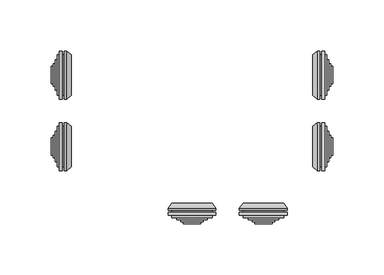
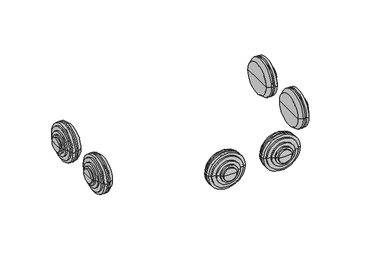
"""IFC4 building model written with IfcOpenShell, lengths in millimetres: cable carrier fitting geometry, КНС_КоробкаОтветвительнаяСКабельнымиВводами_10_IP55_DKC : с 10 кабельными вводами д.32мм, IP55, 240х190х90мм."""

from ifc_helpers import new_model, si_unit, frame, origin, place, context, project, spatial, polyline, circle_curve, source, transform, mapped, element, save
from ifc_brep_helpers import plane_surface, cylinder_surface, revolved_surface, advanced_brep


def cable_carrier_fitting_9a70af75(model_context):
    return source(origin(), model_context, "Body", "AdvancedBrep", [
        advanced_brep(
        [(-125.0, -55.0, 43.0), (-125.0, -15.0, 43.0), (-125.0, -11.5, 43.0), (-125.0, -58.5, 43.0), (-127.0, -55.0, 43.0), (-127.0, -15.0, 43.0), (-127.0, -58.5, 43.0), (-127.0, -11.5, 43.0), (-130.0, -58.5, 43.0), (-130.0, -11.5, 43.0), (-130.0, -55.0, 43.0), (-130.0, -15.0, 43.0), (-132.0, -55.0, 43.0), (-132.0, -15.0, 43.0), (-132.0, -50.0, 43.0), (-132.0, -20.0, 43.0), (-134.0, -50.0, 43.0), (-134.0, -20.0, 43.0), (-134.0, -46.0, 43.0), (-134.0, -24.0, 43.0), (-136.0, -46.0, 43.0), (-136.0, -24.0, 43.0), (-136.0, -43.5, 43.0), (-136.0, -26.5, 43.0), (-138.0, -43.5, 43.0), (-138.0, -26.5, 43.0), (-138.0, -35.0, 43.0), (-118.0, -55.0, 43.0), (-118.0, -15.0, 43.0), (-118.0, -35.0, 43.0), (-122.7491137, -58.5, 43.0), (-122.7491137, -11.5, 43.0)],
        [
            (0, 1, circle_curve(frame((-125.0, -35.0, 43.0), z_axis=(1.0, 0.0, 0.0), x_axis=(0.0, 1.0000000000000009, 0.0)), 20.0)),
            (1, 2),
            (2, 3, circle_curve(frame((-125.0, -35.0, 43.0), z_axis=(-1.0, 0.0, 0.0), x_axis=(0.0, 1.0000000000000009, 0.0)), 23.5)),
            (3, 0),
            (1, 0, circle_curve(frame((-125.0, -35.0, 43.0), z_axis=(1.0, 0.0, 0.0), x_axis=(0.0, 1.0000000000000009, 0.0)), 20.0)),
            (3, 2, circle_curve(frame((-125.0, -35.0, 43.0), z_axis=(-1.0, 0.0, 0.0), x_axis=(0.0, 1.0000000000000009, 0.0)), 23.5)),
            (4, 5, circle_curve(frame((-127.0, -35.0, 43.0), z_axis=(1.0, 0.0, 0.0), x_axis=(0.0, 1.0000000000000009, 0.0)), 20.0)),
            (5, 1),
            (0, 4),
            (5, 4, circle_curve(frame((-127.0, -35.0, 43.0), z_axis=(1.0, 0.0, 0.0), x_axis=(0.0, 1.0000000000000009, 0.0)), 20.0)),
            (6, 7, circle_curve(frame((-127.0, -35.0, 43.0), z_axis=(1.0, 0.0, 0.0), x_axis=(0.0, 1.0000000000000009, 0.0)), 23.5)),
            (7, 5),
            (4, 6),
            (7, 6, circle_curve(frame((-127.0, -35.0, 43.0), z_axis=(1.0, 0.0, 0.0), x_axis=(0.0, 1.0000000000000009, 0.0)), 23.5)),
            (8, 9, circle_curve(frame((-130.0, -35.0, 43.0), z_axis=(1.0, 0.0, 0.0), x_axis=(0.0, 1.0000000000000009, 0.0)), 23.5)),
            (9, 7),
            (6, 8),
            (9, 8, circle_curve(frame((-130.0, -35.0, 43.0), z_axis=(1.0, 0.0, 0.0), x_axis=(0.0, 1.0000000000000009, 0.0)), 23.5)),
            (10, 11, circle_curve(frame((-130.0, -35.0, 43.0), z_axis=(1.0, 0.0, 0.0), x_axis=(0.0, 1.0000000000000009, 0.0)), 20.0)),
            (11, 9),
            (8, 10),
            (11, 10, circle_curve(frame((-130.0, -35.0, 43.0), z_axis=(1.0, 0.0, 0.0), x_axis=(0.0, 1.0000000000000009, 0.0)), 20.0)),
            (12, 13, circle_curve(frame((-132.0, -35.0, 43.0), z_axis=(1.0, 0.0, 0.0), x_axis=(0.0, 1.0000000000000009, 0.0)), 20.0)),
            (13, 11),
            (10, 12),
            (13, 12, circle_curve(frame((-132.0, -35.0, 43.0), z_axis=(1.0, 0.0, 0.0), x_axis=(0.0, 1.0000000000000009, 0.0)), 20.0)),
            (14, 15, circle_curve(frame((-132.0, -35.0, 43.0), z_axis=(1.0, 0.0, 0.0), x_axis=(0.0, 1.0000000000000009, 0.0)), 15.0)),
            (15, 13),
            (12, 14),
            (15, 14, circle_curve(frame((-132.0, -35.0, 43.0), z_axis=(1.0, 0.0, 0.0), x_axis=(0.0, 1.0000000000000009, 0.0)), 15.0)),
            (16, 17, circle_curve(frame((-134.0, -35.0, 43.0), z_axis=(1.0, 0.0, 0.0), x_axis=(0.0, 1.0000000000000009, 0.0)), 15.0)),
            (17, 15),
            (14, 16),
            (17, 16, circle_curve(frame((-134.0, -35.0, 43.0), z_axis=(1.0, 0.0, 0.0), x_axis=(0.0, 1.0000000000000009, 0.0)), 15.0)),
            (18, 19, circle_curve(frame((-134.0, -35.0, 43.0), z_axis=(1.0, 0.0, 0.0), x_axis=(0.0, 1.0000000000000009, 0.0)), 11.0)),
            (19, 17),
            (16, 18),
            (19, 18, circle_curve(frame((-134.0, -35.0, 43.0), z_axis=(1.0, 0.0, 0.0), x_axis=(0.0, 1.0000000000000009, 0.0)), 11.0)),
            (20, 21, circle_curve(frame((-136.0, -35.0, 43.0), z_axis=(1.0, 0.0, 0.0), x_axis=(0.0, 1.0000000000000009, 0.0)), 11.0)),
            (21, 19),
            (18, 20),
            (21, 20, circle_curve(frame((-136.0, -35.0, 43.0), z_axis=(1.0, 0.0, 0.0), x_axis=(0.0, 1.0000000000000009, 0.0)), 11.0)),
            (22, 23, circle_curve(frame((-136.0, -35.0, 43.0), z_axis=(1.0, 0.0, 0.0), x_axis=(0.0, 1.0000000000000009, 0.0)), 8.5)),
            (23, 21),
            (20, 22),
            (23, 22, circle_curve(frame((-136.0, -35.0, 43.0), z_axis=(1.0, 0.0, 0.0), x_axis=(0.0, 1.0000000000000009, 0.0)), 8.5)),
            (24, 25, circle_curve(frame((-138.0, -35.0, 43.0), z_axis=(1.0, 0.0, 0.0), x_axis=(0.0, 1.0000000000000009, 0.0)), 8.5)),
            (25, 23),
            (22, 24),
            (25, 24, circle_curve(frame((-138.0, -35.0, 43.0), z_axis=(1.0, 0.0, 0.0), x_axis=(0.0, 1.0000000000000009, 0.0)), 8.5)),
            (26, 25),
            (24, 26),
            (27, 28, circle_curve(frame((-118.0, -35.0, 43.0), z_axis=(1.0, 0.0, 0.0), x_axis=(0.0, 1.0000000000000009, 0.0)), 20.0)),
            (28, 29),
            (29, 27),
            (28, 27, circle_curve(frame((-118.0, -35.0, 43.0), z_axis=(1.0, 0.0, 0.0), x_axis=(0.0, 1.0000000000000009, 0.0)), 20.0)),
            (30, 31, circle_curve(frame((-122.7491137, -35.0, 43.0), z_axis=(1.0, 0.0, 0.0), x_axis=(0.0, 1.0000000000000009, 0.0)), 23.5)),
            (31, 28),
            (27, 30),
            (31, 30, circle_curve(frame((-122.7491137, -35.0, 43.0), z_axis=(1.0, 0.0, 0.0), x_axis=(0.0, 1.0000000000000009, 0.0)), 23.5)),
            (2, 31),
            (30, 3),
        ],
        [
            plane_surface(frame((-125.0, -35.0, 43.0), z_axis=(-1.0, 0.0, 0.0), x_axis=(0.0, 1.0, 0.0))),
            cylinder_surface(frame((1388.0, -35.0, 43.0), z_axis=(-1.0000000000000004, 0.0, 0.0), x_axis=(0.0, 1.0000000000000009, 0.0)), 20.0),
            plane_surface(frame((-127.0, -35.0, 43.0), z_axis=(1.0, 0.0, 0.0), x_axis=(0.0, 1.0, 0.0))),
            cylinder_surface(frame((1388.0, -35.0, 43.0), z_axis=(-1.0000000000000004, 0.0, 0.0), x_axis=(0.0, 1.0000000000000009, 0.0)), 23.5),
            plane_surface(frame((-130.0, -35.0, 43.0), z_axis=(-1.0, 0.0, 0.0), x_axis=(0.0, 1.0, 0.0))),
            plane_surface(frame((-132.0, -35.0, 43.0), z_axis=(-1.0, 0.0, 0.0), x_axis=(0.0, 1.0, 0.0))),
            cylinder_surface(frame((1388.0, -35.0, 43.0), z_axis=(-1.0000000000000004, 0.0, 0.0), x_axis=(0.0, 1.0000000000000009, 0.0)), 15.0),
            plane_surface(frame((-134.0, -35.0, 43.0), z_axis=(-1.0, 0.0, 0.0), x_axis=(0.0, 1.0, 0.0))),
            cylinder_surface(frame((1388.0, -35.0, 43.0), z_axis=(-1.0000000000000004, 0.0, 0.0), x_axis=(0.0, 1.0000000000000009, 0.0)), 11.0),
            plane_surface(frame((-136.0, -35.0, 43.0), z_axis=(-1.0, 0.0, 0.0), x_axis=(0.0, 1.0, 0.0))),
            cylinder_surface(frame((1388.0, -35.0, 43.0), z_axis=(-1.0000000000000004, 0.0, 0.0), x_axis=(0.0, 1.0000000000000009, 0.0)), 8.5),
            plane_surface(frame((-138.0, -35.0, 43.0), z_axis=(-1.0, 0.0, 0.0), x_axis=(0.0, 1.0, 0.0))),
            plane_surface(frame((-118.0, -35.0, 43.0), z_axis=(1.0, 0.0, 0.0), x_axis=(0.0, 1.0, 0.0))),
            revolved_surface(polyline([(-118.0, -15.0, 43.0), (-122.7491137, -11.5, 43.0)]), (1388.0, -35.0, 43.0), (-1.0000000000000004, 0.0, 0.0)),
        ],
        [
            (0, [[1, 2, 3, 4]]),
            (0, [[5, -4, 6, -2]]),
            (1, [[7, 8, -1, 9]]),
            (1, [[10, -9, -5, -8]]),
            (2, [[11, 12, -7, 13]]),
            (2, [[14, -13, -10, -12]]),
            (3, [[15, 16, -11, 17]]),
            (3, [[18, -17, -14, -16]]),
            (4, [[19, 20, -15, 21]]),
            (4, [[22, -21, -18, -20]]),
            (1, [[23, 24, -19, 25]]),
            (1, [[26, -25, -22, -24]]),
            (5, [[27, 28, -23, 29]]),
            (5, [[30, -29, -26, -28]]),
            (6, [[31, 32, -27, 33]]),
            (6, [[34, -33, -30, -32]]),
            (7, [[35, 36, -31, 37]]),
            (7, [[38, -37, -34, -36]]),
            (8, [[39, 40, -35, 41]]),
            (8, [[42, -41, -38, -40]]),
            (9, [[43, 44, -39, 45]]),
            (9, [[46, -45, -42, -44]]),
            (10, [[47, 48, -43, 49]]),
            (10, [[50, -49, -46, -48]]),
            (11, [[51, -47, 52]]),
            (11, [[-52, -50, -51]]),
            (12, [[53, 54, 55]]),
            (12, [[56, -55, -54]]),
            (13, [[57, 58, -53, 59]]),
            (13, [[60, -59, -56, -58]]),
            (3, [[-3, 61, -57, 62]]),
            (3, [[-6, -62, -60, -61]]),
        ],
    ),
        advanced_brep(
        [(-125.0, 15.0, 43.0), (-125.0, 55.0, 43.0), (-125.0, 58.5, 43.0), (-125.0, 11.5, 43.0), (-127.0, 15.0, 43.0), (-127.0, 55.0, 43.0), (-127.0, 11.5, 43.0), (-127.0, 58.5, 43.0), (-130.0, 11.5, 43.0), (-130.0, 58.5, 43.0), (-130.0, 15.0, 43.0), (-130.0, 55.0, 43.0), (-132.0, 15.0, 43.0), (-132.0, 55.0, 43.0), (-132.0, 20.0, 43.0), (-132.0, 50.0, 43.0), (-134.0, 20.0, 43.0), (-134.0, 50.0, 43.0), (-134.0, 24.0, 43.0), (-134.0, 46.0, 43.0), (-136.0, 24.0, 43.0), (-136.0, 46.0, 43.0), (-136.0, 26.5, 43.0), (-136.0, 43.5, 43.0), (-138.0, 26.5, 43.0), (-138.0, 43.5, 43.0), (-138.0, 35.0, 43.0), (-118.0, 15.0, 43.0), (-118.0, 55.0, 43.0), (-118.0, 35.0, 43.0), (-122.7491137, 11.5, 43.0), (-122.7491137, 58.5, 43.0)],
        [
            (0, 1, circle_curve(frame((-125.0, 35.0, 43.0), z_axis=(1.0, 0.0, 0.0), x_axis=(0.0, 1.0000000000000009, 0.0)), 20.0)),
            (1, 2),
            (2, 3, circle_curve(frame((-125.0, 35.0, 43.0), z_axis=(-1.0, 0.0, 0.0), x_axis=(0.0, 1.0000000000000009, 0.0)), 23.5)),
            (3, 0),
            (1, 0, circle_curve(frame((-125.0, 35.0, 43.0), z_axis=(1.0, 0.0, 0.0), x_axis=(0.0, 1.0000000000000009, 0.0)), 20.0)),
            (3, 2, circle_curve(frame((-125.0, 35.0, 43.0), z_axis=(-1.0, 0.0, 0.0), x_axis=(0.0, 1.0000000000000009, 0.0)), 23.5)),
            (4, 5, circle_curve(frame((-127.0, 35.0, 43.0), z_axis=(1.0, 0.0, 0.0), x_axis=(0.0, 1.0000000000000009, 0.0)), 20.0)),
            (5, 1),
            (0, 4),
            (5, 4, circle_curve(frame((-127.0, 35.0, 43.0), z_axis=(1.0, 0.0, 0.0), x_axis=(0.0, 1.0000000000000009, 0.0)), 20.0)),
            (6, 7, circle_curve(frame((-127.0, 35.0, 43.0), z_axis=(1.0, 0.0, 0.0), x_axis=(0.0, 1.0000000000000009, 0.0)), 23.5)),
            (7, 5),
            (4, 6),
            (7, 6, circle_curve(frame((-127.0, 35.0, 43.0), z_axis=(1.0, 0.0, 0.0), x_axis=(0.0, 1.0000000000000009, 0.0)), 23.5)),
            (8, 9, circle_curve(frame((-130.0, 35.0, 43.0), z_axis=(1.0, 0.0, 0.0), x_axis=(0.0, 1.0000000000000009, 0.0)), 23.5)),
            (9, 7),
            (6, 8),
            (9, 8, circle_curve(frame((-130.0, 35.0, 43.0), z_axis=(1.0, 0.0, 0.0), x_axis=(0.0, 1.0000000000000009, 0.0)), 23.5)),
            (10, 11, circle_curve(frame((-130.0, 35.0, 43.0), z_axis=(1.0, 0.0, 0.0), x_axis=(0.0, 1.0000000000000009, 0.0)), 20.0)),
            (11, 9),
            (8, 10),
            (11, 10, circle_curve(frame((-130.0, 35.0, 43.0), z_axis=(1.0, 0.0, 0.0), x_axis=(0.0, 1.0000000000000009, 0.0)), 20.0)),
            (12, 13, circle_curve(frame((-132.0, 35.0, 43.0), z_axis=(1.0, 0.0, 0.0), x_axis=(0.0, 1.0000000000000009, 0.0)), 20.0)),
            (13, 11),
            (10, 12),
            (13, 12, circle_curve(frame((-132.0, 35.0, 43.0), z_axis=(1.0, 0.0, 0.0), x_axis=(0.0, 1.0000000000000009, 0.0)), 20.0)),
            (14, 15, circle_curve(frame((-132.0, 35.0, 43.0), z_axis=(1.0, 0.0, 0.0), x_axis=(0.0, 1.0000000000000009, 0.0)), 15.0)),
            (15, 13),
            (12, 14),
            (15, 14, circle_curve(frame((-132.0, 35.0, 43.0), z_axis=(1.0, 0.0, 0.0), x_axis=(0.0, 1.0000000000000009, 0.0)), 15.0)),
            (16, 17, circle_curve(frame((-134.0, 35.0, 43.0), z_axis=(1.0, 0.0, 0.0), x_axis=(0.0, 1.0000000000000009, 0.0)), 15.0)),
            (17, 15),
            (14, 16),
            (17, 16, circle_curve(frame((-134.0, 35.0, 43.0), z_axis=(1.0, 0.0, 0.0), x_axis=(0.0, 1.0000000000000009, 0.0)), 15.0)),
            (18, 19, circle_curve(frame((-134.0, 35.0, 43.0), z_axis=(1.0, 0.0, 0.0), x_axis=(0.0, 1.0000000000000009, 0.0)), 11.0)),
            (19, 17),
            (16, 18),
            (19, 18, circle_curve(frame((-134.0, 35.0, 43.0), z_axis=(1.0, 0.0, 0.0), x_axis=(0.0, 1.0000000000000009, 0.0)), 11.0)),
            (20, 21, circle_curve(frame((-136.0, 35.0, 43.0), z_axis=(1.0, 0.0, 0.0), x_axis=(0.0, 1.0000000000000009, 0.0)), 11.0)),
            (21, 19),
            (18, 20),
            (21, 20, circle_curve(frame((-136.0, 35.0, 43.0), z_axis=(1.0, 0.0, 0.0), x_axis=(0.0, 1.0000000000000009, 0.0)), 11.0)),
            (22, 23, circle_curve(frame((-136.0, 35.0, 43.0), z_axis=(1.0, 0.0, 0.0), x_axis=(0.0, 1.0000000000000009, 0.0)), 8.5)),
            (23, 21),
            (20, 22),
            (23, 22, circle_curve(frame((-136.0, 35.0, 43.0), z_axis=(1.0, 0.0, 0.0), x_axis=(0.0, 1.0000000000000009, 0.0)), 8.5)),
            (24, 25, circle_curve(frame((-138.0, 35.0, 43.0), z_axis=(1.0, 0.0, 0.0), x_axis=(0.0, 1.0000000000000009, 0.0)), 8.5)),
            (25, 23),
            (22, 24),
            (25, 24, circle_curve(frame((-138.0, 35.0, 43.0), z_axis=(1.0, 0.0, 0.0), x_axis=(0.0, 1.0000000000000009, 0.0)), 8.5)),
            (26, 25),
            (24, 26),
            (27, 28, circle_curve(frame((-118.0, 35.0, 43.0), z_axis=(1.0, 0.0, 0.0), x_axis=(0.0, 1.0000000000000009, 0.0)), 20.0)),
            (28, 29),
            (29, 27),
            (28, 27, circle_curve(frame((-118.0, 35.0, 43.0), z_axis=(1.0, 0.0, 0.0), x_axis=(0.0, 1.0000000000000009, 0.0)), 20.0)),
            (30, 31, circle_curve(frame((-122.7491137, 35.0, 43.0), z_axis=(1.0, 0.0, 0.0), x_axis=(0.0, 1.0000000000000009, 0.0)), 23.5)),
            (31, 28),
            (27, 30),
            (31, 30, circle_curve(frame((-122.7491137, 35.0, 43.0), z_axis=(1.0, 0.0, 0.0), x_axis=(0.0, 1.0000000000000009, 0.0)), 23.5)),
            (2, 31),
            (30, 3),
        ],
        [
            plane_surface(frame((-125.0, 35.0, 43.0), z_axis=(-1.0, 0.0, 0.0), x_axis=(0.0, 1.0, 0.0))),
            cylinder_surface(frame((1388.0, 35.0, 43.0), z_axis=(-1.0000000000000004, 0.0, 0.0), x_axis=(0.0, 1.0000000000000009, 0.0)), 20.0),
            plane_surface(frame((-127.0, 35.0, 43.0), z_axis=(1.0, 0.0, 0.0), x_axis=(0.0, 1.0, 0.0))),
            cylinder_surface(frame((1388.0, 35.0, 43.0), z_axis=(-1.0000000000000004, 0.0, 0.0), x_axis=(0.0, 1.0000000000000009, 0.0)), 23.5),
            plane_surface(frame((-130.0, 35.0, 43.0), z_axis=(-1.0, 0.0, 0.0), x_axis=(0.0, 1.0, 0.0))),
            plane_surface(frame((-132.0, 35.0, 43.0), z_axis=(-1.0, 0.0, 0.0), x_axis=(0.0, 1.0, 0.0))),
            cylinder_surface(frame((1388.0, 35.0, 43.0), z_axis=(-1.0000000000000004, 0.0, 0.0), x_axis=(0.0, 1.0000000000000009, 0.0)), 15.0),
            plane_surface(frame((-134.0, 35.0, 43.0), z_axis=(-1.0, 0.0, 0.0), x_axis=(0.0, 1.0, 0.0))),
            cylinder_surface(frame((1388.0, 35.0, 43.0), z_axis=(-1.0000000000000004, 0.0, 0.0), x_axis=(0.0, 1.0000000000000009, 0.0)), 11.0),
            plane_surface(frame((-136.0, 35.0, 43.0), z_axis=(-1.0, 0.0, 0.0), x_axis=(0.0, 1.0, 0.0))),
            cylinder_surface(frame((1388.0, 35.0, 43.0), z_axis=(-1.0000000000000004, 0.0, 0.0), x_axis=(0.0, 1.0000000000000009, 0.0)), 8.5),
            plane_surface(frame((-138.0, 35.0, 43.0), z_axis=(-1.0, 0.0, 0.0), x_axis=(0.0, 1.0, 0.0))),
            plane_surface(frame((-118.0, 35.0, 43.0), z_axis=(1.0, 0.0, 0.0), x_axis=(0.0, 1.0, 0.0))),
            revolved_surface(polyline([(-118.0, 55.0, 43.0), (-122.7491137, 58.5, 43.0)]), (1388.0, 35.0, 43.0), (-1.0000000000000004, 0.0, 0.0)),
        ],
        [
            (0, [[1, 2, 3, 4]]),
            (0, [[5, -4, 6, -2]]),
            (1, [[7, 8, -1, 9]]),
            (1, [[10, -9, -5, -8]]),
            (2, [[11, 12, -7, 13]]),
            (2, [[14, -13, -10, -12]]),
            (3, [[15, 16, -11, 17]]),
            (3, [[18, -17, -14, -16]]),
            (4, [[19, 20, -15, 21]]),
            (4, [[22, -21, -18, -20]]),
            (1, [[23, 24, -19, 25]]),
            (1, [[26, -25, -22, -24]]),
            (5, [[27, 28, -23, 29]]),
            (5, [[30, -29, -26, -28]]),
            (6, [[31, 32, -27, 33]]),
            (6, [[34, -33, -30, -32]]),
            (7, [[35, 36, -31, 37]]),
            (7, [[38, -37, -34, -36]]),
            (8, [[39, 40, -35, 41]]),
            (8, [[42, -41, -38, -40]]),
            (9, [[43, 44, -39, 45]]),
            (9, [[46, -45, -42, -44]]),
            (10, [[47, 48, -43, 49]]),
            (10, [[50, -49, -46, -48]]),
            (11, [[51, -47, 52]]),
            (11, [[-52, -50, -51]]),
            (12, [[53, 54, 55]]),
            (12, [[56, -55, -54]]),
            (13, [[57, 58, -53, 59]]),
            (13, [[60, -59, -56, -58]]),
            (3, [[-3, 61, -57, 62]]),
            (3, [[-6, -62, -60, -61]]),
        ],
    ),
        advanced_brep(
        [(125.0, 55.0, 43.0), (125.0, 15.0, 43.0), (125.0, 11.5, 43.0), (125.0, 58.5, 43.0), (127.0, 55.0, 43.0), (127.0, 15.0, 43.0), (127.0, 58.5, 43.0), (127.0, 11.5, 43.0), (130.0, 58.5, 43.0), (130.0, 11.5, 43.0), (130.0, 55.0, 43.0), (130.0, 15.0, 43.0), (132.0, 55.0, 43.0), (132.0, 15.0, 43.0), (132.0, 50.0, 43.0), (132.0, 20.0, 43.0), (134.0, 50.0, 43.0), (134.0, 20.0, 43.0), (134.0, 46.0, 43.0), (134.0, 24.0, 43.0), (136.0, 46.0, 43.0), (136.0, 24.0, 43.0), (136.0, 43.5, 43.0), (136.0, 26.5, 43.0), (138.0, 43.5, 43.0), (138.0, 26.5, 43.0), (138.0, 35.0, 43.0), (118.0, 55.0, 43.0), (118.0, 15.0, 43.0), (118.0, 35.0, 43.0), (122.7491137, 58.5, 43.0), (122.7491137, 11.5, 43.0)],
        [
            (0, 1, circle_curve(frame((125.0, 35.0, 43.0), z_axis=(-1.0, 0.0, 0.0), x_axis=(0.0, -1.0, 0.0)), 20.0)),
            (1, 2),
            (2, 3, circle_curve(frame((125.0, 35.0, 43.0), z_axis=(1.0, 0.0, 0.0), x_axis=(0.0, -1.0, 0.0)), 23.5)),
            (3, 0),
            (1, 0, circle_curve(frame((125.0, 35.0, 43.0), z_axis=(-1.0, 0.0, 0.0), x_axis=(0.0, -1.0, 0.0)), 20.0)),
            (3, 2, circle_curve(frame((125.0, 35.0, 43.0), z_axis=(1.0, 0.0, 0.0), x_axis=(0.0, -1.0, 0.0)), 23.5)),
            (4, 5, circle_curve(frame((127.0, 35.0, 43.0), z_axis=(-1.0, 0.0, 0.0), x_axis=(0.0, -1.0, 0.0)), 20.0)),
            (5, 1),
            (0, 4),
            (5, 4, circle_curve(frame((127.0, 35.0, 43.0), z_axis=(-1.0, 0.0, 0.0), x_axis=(0.0, -1.0, 0.0)), 20.0)),
            (6, 7, circle_curve(frame((127.0, 35.0, 43.0), z_axis=(-1.0, 0.0, 0.0), x_axis=(0.0, -1.0, 0.0)), 23.5)),
            (7, 5),
            (4, 6),
            (7, 6, circle_curve(frame((127.0, 35.0, 43.0), z_axis=(-1.0, 0.0, 0.0), x_axis=(0.0, -1.0, 0.0)), 23.5)),
            (8, 9, circle_curve(frame((130.0, 35.0, 43.0), z_axis=(-1.0, 0.0, 0.0), x_axis=(0.0, -1.0, 0.0)), 23.5)),
            (9, 7),
            (6, 8),
            (9, 8, circle_curve(frame((130.0, 35.0, 43.0), z_axis=(-1.0, 0.0, 0.0), x_axis=(0.0, -1.0, 0.0)), 23.5)),
            (10, 11, circle_curve(frame((130.0, 35.0, 43.0), z_axis=(-1.0, 0.0, 0.0), x_axis=(0.0, -1.0, 0.0)), 20.0)),
            (11, 9),
            (8, 10),
            (11, 10, circle_curve(frame((130.0, 35.0, 43.0), z_axis=(-1.0, 0.0, 0.0), x_axis=(0.0, -1.0, 0.0)), 20.0)),
            (12, 13, circle_curve(frame((132.0, 35.0, 43.0), z_axis=(-1.0, 0.0, 0.0), x_axis=(0.0, -1.0, 0.0)), 20.0)),
            (13, 11),
            (10, 12),
            (13, 12, circle_curve(frame((132.0, 35.0, 43.0), z_axis=(-1.0, 0.0, 0.0), x_axis=(0.0, -1.0, 0.0)), 20.0)),
            (14, 15, circle_curve(frame((132.0, 35.0, 43.0), z_axis=(-1.0, 0.0, 0.0), x_axis=(0.0, -1.0, 0.0)), 15.0)),
            (15, 13),
            (12, 14),
            (15, 14, circle_curve(frame((132.0, 35.0, 43.0), z_axis=(-1.0, 0.0, 0.0), x_axis=(0.0, -1.0, 0.0)), 15.0)),
            (16, 17, circle_curve(frame((134.0, 35.0, 43.0), z_axis=(-1.0, 0.0, 0.0), x_axis=(0.0, -1.0, 0.0)), 15.0)),
            (17, 15),
            (14, 16),
            (17, 16, circle_curve(frame((134.0, 35.0, 43.0), z_axis=(-1.0, 0.0, 0.0), x_axis=(0.0, -1.0, 0.0)), 15.0)),
            (18, 19, circle_curve(frame((134.0, 35.0, 43.0), z_axis=(-1.0, 0.0, 0.0), x_axis=(0.0, -1.0, 0.0)), 11.0)),
            (19, 17),
            (16, 18),
            (19, 18, circle_curve(frame((134.0, 35.0, 43.0), z_axis=(-1.0, 0.0, 0.0), x_axis=(0.0, -1.0, 0.0)), 11.0)),
            (20, 21, circle_curve(frame((136.0, 35.0, 43.0), z_axis=(-1.0, 0.0, 0.0), x_axis=(0.0, -1.0, 0.0)), 11.0)),
            (21, 19),
            (18, 20),
            (21, 20, circle_curve(frame((136.0, 35.0, 43.0), z_axis=(-1.0, 0.0, 0.0), x_axis=(0.0, -1.0, 0.0)), 11.0)),
            (22, 23, circle_curve(frame((136.0, 35.0, 43.0), z_axis=(-1.0, 0.0, 0.0), x_axis=(0.0, -1.0, 0.0)), 8.5)),
            (23, 21),
            (20, 22),
            (23, 22, circle_curve(frame((136.0, 35.0, 43.0), z_axis=(-1.0, 0.0, 0.0), x_axis=(0.0, -1.0, 0.0)), 8.5)),
            (24, 25, circle_curve(frame((138.0, 35.0, 43.0), z_axis=(-1.0, 0.0, 0.0), x_axis=(0.0, -1.0, 0.0)), 8.5)),
            (25, 23),
            (22, 24),
            (25, 24, circle_curve(frame((138.0, 35.0, 43.0), z_axis=(-1.0, 0.0, 0.0), x_axis=(0.0, -1.0, 0.0)), 8.5)),
            (26, 25),
            (24, 26),
            (27, 28, circle_curve(frame((118.0, 35.0, 43.0), z_axis=(-1.0, 0.0, 0.0), x_axis=(0.0, -1.0, 0.0)), 20.0)),
            (28, 29),
            (29, 27),
            (28, 27, circle_curve(frame((118.0, 35.0, 43.0), z_axis=(-1.0, 0.0, 0.0), x_axis=(0.0, -1.0, 0.0)), 20.0)),
            (30, 31, circle_curve(frame((122.7491137, 35.0, 43.0), z_axis=(-1.0, 0.0, 0.0), x_axis=(0.0, -1.0, 0.0)), 23.5)),
            (31, 28),
            (27, 30),
            (31, 30, circle_curve(frame((122.7491137, 35.0, 43.0), z_axis=(-1.0, 0.0, 0.0), x_axis=(0.0, -1.0, 0.0)), 23.5)),
            (2, 31),
            (30, 3),
        ],
        [
            plane_surface(frame((125.0, 35.0, 43.0), z_axis=(1.0, 0.0, 0.0), x_axis=(0.0, -1.0, 0.0))),
            cylinder_surface(frame((-1388.0, 35.0, 43.0), z_axis=(1.0, 0.0, 0.0), x_axis=(0.0, -1.0, 0.0)), 20.0),
            plane_surface(frame((127.0, 35.0, 43.0), z_axis=(-1.0, 0.0, 0.0), x_axis=(0.0, -1.0, 0.0))),
            cylinder_surface(frame((-1388.0, 35.0, 43.0), z_axis=(1.0, 0.0, 0.0), x_axis=(0.0, -1.0, 0.0)), 23.5),
            plane_surface(frame((130.0, 35.0, 43.0), z_axis=(1.0, 0.0, 0.0), x_axis=(0.0, -1.0, 0.0))),
            plane_surface(frame((132.0, 35.0, 43.0), z_axis=(1.0, 0.0, 0.0), x_axis=(0.0, -1.0, 0.0))),
            cylinder_surface(frame((-1388.0, 35.0, 43.0), z_axis=(1.0, 0.0, 0.0), x_axis=(0.0, -1.0, 0.0)), 15.0),
            plane_surface(frame((134.0, 35.0, 43.0), z_axis=(1.0, 0.0, 0.0), x_axis=(0.0, -1.0, 0.0))),
            cylinder_surface(frame((-1388.0, 35.0, 43.0), z_axis=(1.0, 0.0, 0.0), x_axis=(0.0, -1.0, 0.0)), 11.0),
            plane_surface(frame((136.0, 35.0, 43.0), z_axis=(1.0, 0.0, 0.0), x_axis=(0.0, -1.0, 0.0))),
            cylinder_surface(frame((-1388.0, 35.0, 43.0), z_axis=(1.0, 0.0, 0.0), x_axis=(0.0, -1.0, 0.0)), 8.5),
            plane_surface(frame((138.0, 35.0, 43.0), z_axis=(1.0, 0.0, 0.0), x_axis=(0.0, -1.0, 0.0))),
            plane_surface(frame((118.0, 35.0, 43.0), z_axis=(-1.0, 0.0, 0.0), x_axis=(0.0, -1.0, 0.0))),
            revolved_surface(polyline([(118.0, 15.0, 43.0), (122.7491137, 11.5, 43.0)]), (-1388.0, 35.0, 43.0), (1.0, 0.0, 0.0)),
        ],
        [
            (0, [[1, 2, 3, 4]]),
            (0, [[5, -4, 6, -2]]),
            (1, [[7, 8, -1, 9]]),
            (1, [[10, -9, -5, -8]]),
            (2, [[11, 12, -7, 13]]),
            (2, [[14, -13, -10, -12]]),
            (3, [[15, 16, -11, 17]]),
            (3, [[18, -17, -14, -16]]),
            (4, [[19, 20, -15, 21]]),
            (4, [[22, -21, -18, -20]]),
            (1, [[23, 24, -19, 25]]),
            (1, [[26, -25, -22, -24]]),
            (5, [[27, 28, -23, 29]]),
            (5, [[30, -29, -26, -28]]),
            (6, [[31, 32, -27, 33]]),
            (6, [[34, -33, -30, -32]]),
            (7, [[35, 36, -31, 37]]),
            (7, [[38, -37, -34, -36]]),
            (8, [[39, 40, -35, 41]]),
            (8, [[42, -41, -38, -40]]),
            (9, [[43, 44, -39, 45]]),
            (9, [[46, -45, -42, -44]]),
            (10, [[47, 48, -43, 49]]),
            (10, [[50, -49, -46, -48]]),
            (11, [[51, -47, 52]]),
            (11, [[-52, -50, -51]]),
            (12, [[53, 54, 55]]),
            (12, [[56, -55, -54]]),
            (13, [[57, 58, -53, 59]]),
            (13, [[60, -59, -56, -58]]),
            (3, [[-3, 61, -57, 62]]),
            (3, [[-6, -62, -60, -61]]),
        ],
    ),
        advanced_brep(
        [(125.0, -15.0, 43.0), (125.0, -55.0, 43.0), (125.0, -58.5, 43.0), (125.0, -11.5, 43.0), (127.0, -15.0, 43.0), (127.0, -55.0, 43.0), (127.0, -11.5, 43.0), (127.0, -58.5, 43.0), (130.0, -11.5, 43.0), (130.0, -58.5, 43.0), (130.0, -15.0, 43.0), (130.0, -55.0, 43.0), (132.0, -15.0, 43.0), (132.0, -55.0, 43.0), (132.0, -20.0, 43.0), (132.0, -50.0, 43.0), (134.0, -20.0, 43.0), (134.0, -50.0, 43.0), (134.0, -24.0, 43.0), (134.0, -46.0, 43.0), (136.0, -24.0, 43.0), (136.0, -46.0, 43.0), (136.0, -26.5, 43.0), (136.0, -43.5, 43.0), (138.0, -26.5, 43.0), (138.0, -43.5, 43.0), (138.0, -35.0, 43.0), (118.0, -15.0, 43.0), (118.0, -55.0, 43.0), (118.0, -35.0, 43.0), (122.7491137, -11.5, 43.0), (122.7491137, -58.5, 43.0)],
        [
            (0, 1, circle_curve(frame((125.0, -35.0, 43.0), z_axis=(-1.0, 0.0, 0.0), x_axis=(0.0, -1.0000000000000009, 0.0)), 20.0)),
            (1, 2),
            (2, 3, circle_curve(frame((125.0, -35.0, 43.0), z_axis=(1.0, 0.0, 0.0), x_axis=(0.0, -1.0000000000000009, 0.0)), 23.5)),
            (3, 0),
            (1, 0, circle_curve(frame((125.0, -35.0, 43.0), z_axis=(-1.0, 0.0, 0.0), x_axis=(0.0, -1.0000000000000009, 0.0)), 20.0)),
            (3, 2, circle_curve(frame((125.0, -35.0, 43.0), z_axis=(1.0, 0.0, 0.0), x_axis=(0.0, -1.0000000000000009, 0.0)), 23.5)),
            (4, 5, circle_curve(frame((127.0, -35.0, 43.0), z_axis=(-1.0, 0.0, 0.0), x_axis=(0.0, -1.0000000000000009, 0.0)), 20.0)),
            (5, 1),
            (0, 4),
            (5, 4, circle_curve(frame((127.0, -35.0, 43.0), z_axis=(-1.0, 0.0, 0.0), x_axis=(0.0, -1.0000000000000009, 0.0)), 20.0)),
            (6, 7, circle_curve(frame((127.0, -35.0, 43.0), z_axis=(-1.0, 0.0, 0.0), x_axis=(0.0, -1.0000000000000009, 0.0)), 23.5)),
            (7, 5),
            (4, 6),
            (7, 6, circle_curve(frame((127.0, -35.0, 43.0), z_axis=(-1.0, 0.0, 0.0), x_axis=(0.0, -1.0000000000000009, 0.0)), 23.5)),
            (8, 9, circle_curve(frame((130.0, -35.0, 43.0), z_axis=(-1.0, 0.0, 0.0), x_axis=(0.0, -1.0000000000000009, 0.0)), 23.5)),
            (9, 7),
            (6, 8),
            (9, 8, circle_curve(frame((130.0, -35.0, 43.0), z_axis=(-1.0, 0.0, 0.0), x_axis=(0.0, -1.0000000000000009, 0.0)), 23.5)),
            (10, 11, circle_curve(frame((130.0, -35.0, 43.0), z_axis=(-1.0, 0.0, 0.0), x_axis=(0.0, -1.0000000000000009, 0.0)), 20.0)),
            (11, 9),
            (8, 10),
            (11, 10, circle_curve(frame((130.0, -35.0, 43.0), z_axis=(-1.0, 0.0, 0.0), x_axis=(0.0, -1.0000000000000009, 0.0)), 20.0)),
            (12, 13, circle_curve(frame((132.0, -35.0, 43.0), z_axis=(-1.0, 0.0, 0.0), x_axis=(0.0, -1.0000000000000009, 0.0)), 20.0)),
            (13, 11),
            (10, 12),
            (13, 12, circle_curve(frame((132.0, -35.0, 43.0), z_axis=(-1.0, 0.0, 0.0), x_axis=(0.0, -1.0000000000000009, 0.0)), 20.0)),
            (14, 15, circle_curve(frame((132.0, -35.0, 43.0), z_axis=(-1.0, 0.0, 0.0), x_axis=(0.0, -1.0000000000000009, 0.0)), 15.0)),
            (15, 13),
            (12, 14),
            (15, 14, circle_curve(frame((132.0, -35.0, 43.0), z_axis=(-1.0, 0.0, 0.0), x_axis=(0.0, -1.0000000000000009, 0.0)), 15.0)),
            (16, 17, circle_curve(frame((134.0, -35.0, 43.0), z_axis=(-1.0, 0.0, 0.0), x_axis=(0.0, -1.0000000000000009, 0.0)), 15.0)),
            (17, 15),
            (14, 16),
            (17, 16, circle_curve(frame((134.0, -35.0, 43.0), z_axis=(-1.0, 0.0, 0.0), x_axis=(0.0, -1.0000000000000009, 0.0)), 15.0)),
            (18, 19, circle_curve(frame((134.0, -35.0, 43.0), z_axis=(-1.0, 0.0, 0.0), x_axis=(0.0, -1.0000000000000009, 0.0)), 11.0)),
            (19, 17),
            (16, 18),
            (19, 18, circle_curve(frame((134.0, -35.0, 43.0), z_axis=(-1.0, 0.0, 0.0), x_axis=(0.0, -1.0000000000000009, 0.0)), 11.0)),
            (20, 21, circle_curve(frame((136.0, -35.0, 43.0), z_axis=(-1.0, 0.0, 0.0), x_axis=(0.0, -1.0000000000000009, 0.0)), 11.0)),
            (21, 19),
            (18, 20),
            (21, 20, circle_curve(frame((136.0, -35.0, 43.0), z_axis=(-1.0, 0.0, 0.0), x_axis=(0.0, -1.0000000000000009, 0.0)), 11.0)),
            (22, 23, circle_curve(frame((136.0, -35.0, 43.0), z_axis=(-1.0, 0.0, 0.0), x_axis=(0.0, -1.0000000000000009, 0.0)), 8.5)),
            (23, 21),
            (20, 22),
            (23, 22, circle_curve(frame((136.0, -35.0, 43.0), z_axis=(-1.0, 0.0, 0.0), x_axis=(0.0, -1.0000000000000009, 0.0)), 8.5)),
            (24, 25, circle_curve(frame((138.0, -35.0, 43.0), z_axis=(-1.0, 0.0, 0.0), x_axis=(0.0, -1.0000000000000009, 0.0)), 8.5)),
            (25, 23),
            (22, 24),
            (25, 24, circle_curve(frame((138.0, -35.0, 43.0), z_axis=(-1.0, 0.0, 0.0), x_axis=(0.0, -1.0000000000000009, 0.0)), 8.5)),
            (26, 25),
            (24, 26),
            (27, 28, circle_curve(frame((118.0, -35.0, 43.0), z_axis=(-1.0, 0.0, 0.0), x_axis=(0.0, -1.0000000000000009, 0.0)), 20.0)),
            (28, 29),
            (29, 27),
            (28, 27, circle_curve(frame((118.0, -35.0, 43.0), z_axis=(-1.0, 0.0, 0.0), x_axis=(0.0, -1.0000000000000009, 0.0)), 20.0)),
            (30, 31, circle_curve(frame((122.7491137, -35.0, 43.0), z_axis=(-1.0, 0.0, 0.0), x_axis=(0.0, -1.0000000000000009, 0.0)), 23.5)),
            (31, 28),
            (27, 30),
            (31, 30, circle_curve(frame((122.7491137, -35.0, 43.0), z_axis=(-1.0, 0.0, 0.0), x_axis=(0.0, -1.0000000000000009, 0.0)), 23.5)),
            (2, 31),
            (30, 3),
        ],
        [
            plane_surface(frame((125.0, -35.0, 43.0), z_axis=(1.0, 0.0, 0.0), x_axis=(0.0, -1.0, 0.0))),
            cylinder_surface(frame((-1388.0, -35.0, 43.0), z_axis=(1.0000000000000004, 0.0, 0.0), x_axis=(0.0, -1.0000000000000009, 0.0)), 20.0),
            plane_surface(frame((127.0, -35.0, 43.0), z_axis=(-1.0, 0.0, 0.0), x_axis=(0.0, -1.0, 0.0))),
            cylinder_surface(frame((-1388.0, -35.0, 43.0), z_axis=(1.0000000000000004, 0.0, 0.0), x_axis=(0.0, -1.0000000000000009, 0.0)), 23.5),
            plane_surface(frame((130.0, -35.0, 43.0), z_axis=(1.0, 0.0, 0.0), x_axis=(0.0, -1.0, 0.0))),
            plane_surface(frame((132.0, -35.0, 43.0), z_axis=(1.0, 0.0, 0.0), x_axis=(0.0, -1.0, 0.0))),
            cylinder_surface(frame((-1388.0, -35.0, 43.0), z_axis=(1.0000000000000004, 0.0, 0.0), x_axis=(0.0, -1.0000000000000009, 0.0)), 15.0),
            plane_surface(frame((134.0, -35.0, 43.0), z_axis=(1.0, 0.0, 0.0), x_axis=(0.0, -1.0, 0.0))),
            cylinder_surface(frame((-1388.0, -35.0, 43.0), z_axis=(1.0000000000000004, 0.0, 0.0), x_axis=(0.0, -1.0000000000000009, 0.0)), 11.0),
            plane_surface(frame((136.0, -35.0, 43.0), z_axis=(1.0, 0.0, 0.0), x_axis=(0.0, -1.0, 0.0))),
            cylinder_surface(frame((-1388.0, -35.0, 43.0), z_axis=(1.0000000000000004, 0.0, 0.0), x_axis=(0.0, -1.0000000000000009, 0.0)), 8.5),
            plane_surface(frame((138.0, -35.0, 43.0), z_axis=(1.0, 0.0, 0.0), x_axis=(0.0, -1.0, 0.0))),
            plane_surface(frame((118.0, -35.0, 43.0), z_axis=(-1.0, 0.0, 0.0), x_axis=(0.0, -1.0, 0.0))),
            revolved_surface(polyline([(118.0, -55.0, 43.0), (122.7491137, -58.5, 43.0)]), (-1388.0, -35.0, 43.0), (1.0000000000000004, 0.0, 0.0)),
        ],
        [
            (0, [[1, 2, 3, 4]]),
            (0, [[5, -4, 6, -2]]),
            (1, [[7, 8, -1, 9]]),
            (1, [[10, -9, -5, -8]]),
            (2, [[11, 12, -7, 13]]),
            (2, [[14, -13, -10, -12]]),
            (3, [[15, 16, -11, 17]]),
            (3, [[18, -17, -14, -16]]),
            (4, [[19, 20, -15, 21]]),
            (4, [[22, -21, -18, -20]]),
            (1, [[23, 24, -19, 25]]),
            (1, [[26, -25, -22, -24]]),
            (5, [[27, 28, -23, 29]]),
            (5, [[30, -29, -26, -28]]),
            (6, [[31, 32, -27, 33]]),
            (6, [[34, -33, -30, -32]]),
            (7, [[35, 36, -31, 37]]),
            (7, [[38, -37, -34, -36]]),
            (8, [[39, 40, -35, 41]]),
            (8, [[42, -41, -38, -40]]),
            (9, [[43, 44, -39, 45]]),
            (9, [[46, -45, -42, -44]]),
            (10, [[47, 48, -43, 49]]),
            (10, [[50, -49, -46, -48]]),
            (11, [[51, -47, 52]]),
            (11, [[-52, -50, -51]]),
            (12, [[53, 54, 55]]),
            (12, [[56, -55, -54]]),
            (13, [[57, 58, -53, 59]]),
            (13, [[60, -59, -56, -58]]),
            (3, [[-3, 61, -57, 62]]),
            (3, [[-6, -62, -60, -61]]),
        ],
    ),
        advanced_brep(
        [(90.0, -97.5, 43.0), (50.0, -97.5, 43.0), (46.5, -97.5, 43.0), (93.5, -97.5, 43.0), (90.0, -99.5, 43.0), (50.0, -99.5, 43.0), (93.5, -99.5, 43.0), (46.5, -99.5, 43.0), (93.5, -102.5, 43.0), (46.5, -102.5, 43.0), (90.0, -102.5, 43.0), (50.0, -102.5, 43.0), (90.0, -104.5, 43.0), (50.0, -104.5, 43.0), (85.0, -104.5, 43.0), (55.0, -104.5, 43.0), (85.0, -106.5, 43.0), (55.0, -106.5, 43.0), (81.0, -106.5, 43.0), (59.0, -106.5, 43.0), (81.0, -108.5, 43.0), (59.0, -108.5, 43.0), (78.5, -108.5, 43.0), (61.5, -108.5, 43.0), (78.5, -110.5, 43.0), (61.5, -110.5, 43.0), (70.0, -110.5, 43.0), (90.0, -90.5, 43.0), (50.0, -90.5, 43.0), (70.0, -90.5, 43.0), (93.5, -95.2491137, 43.0), (46.5, -95.2491137, 43.0)],
        [
            (0, 1, circle_curve(frame((70.0, -97.5, 43.0), z_axis=(0.0, 1.0, 0.0), x_axis=(-1.0000000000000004, 0.0, 0.0)), 20.0)),
            (1, 2),
            (2, 3, circle_curve(frame((70.0, -97.5, 43.0), z_axis=(0.0, -1.0, 0.0), x_axis=(-1.0000000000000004, 0.0, 0.0)), 23.5)),
            (3, 0),
            (1, 0, circle_curve(frame((70.0, -97.5, 43.0), z_axis=(0.0, 1.0, 0.0), x_axis=(-1.0000000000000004, 0.0, 0.0)), 20.0)),
            (3, 2, circle_curve(frame((70.0, -97.5, 43.0), z_axis=(0.0, -1.0, 0.0), x_axis=(-1.0000000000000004, 0.0, 0.0)), 23.5)),
            (4, 5, circle_curve(frame((70.0, -99.5, 43.0), z_axis=(0.0, 1.0, 0.0), x_axis=(-1.0000000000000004, 0.0, 0.0)), 20.0)),
            (5, 1),
            (0, 4),
            (5, 4, circle_curve(frame((70.0, -99.5, 43.0), z_axis=(0.0, 1.0, 0.0), x_axis=(-1.0000000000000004, 0.0, 0.0)), 20.0)),
            (6, 7, circle_curve(frame((70.0, -99.5, 43.0), z_axis=(0.0, 1.0, 0.0), x_axis=(-1.0000000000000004, 0.0, 0.0)), 23.5)),
            (7, 5),
            (4, 6),
            (7, 6, circle_curve(frame((70.0, -99.5, 43.0), z_axis=(0.0, 1.0, 0.0), x_axis=(-1.0000000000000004, 0.0, 0.0)), 23.5)),
            (8, 9, circle_curve(frame((70.0, -102.5, 43.0), z_axis=(0.0, 1.0, 0.0), x_axis=(-1.0000000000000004, 0.0, 0.0)), 23.5)),
            (9, 7),
            (6, 8),
            (9, 8, circle_curve(frame((70.0, -102.5, 43.0), z_axis=(0.0, 1.0, 0.0), x_axis=(-1.0000000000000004, 0.0, 0.0)), 23.5)),
            (10, 11, circle_curve(frame((70.0, -102.5, 43.0), z_axis=(0.0, 1.0, 0.0), x_axis=(-1.0000000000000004, 0.0, 0.0)), 20.0)),
            (11, 9),
            (8, 10),
            (11, 10, circle_curve(frame((70.0, -102.5, 43.0), z_axis=(0.0, 1.0, 0.0), x_axis=(-1.0000000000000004, 0.0, 0.0)), 20.0)),
            (12, 13, circle_curve(frame((70.0, -104.5, 43.0), z_axis=(0.0, 1.0, 0.0), x_axis=(-1.0000000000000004, 0.0, 0.0)), 20.0)),
            (13, 11),
            (10, 12),
            (13, 12, circle_curve(frame((70.0, -104.5, 43.0), z_axis=(0.0, 1.0, 0.0), x_axis=(-1.0000000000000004, 0.0, 0.0)), 20.0)),
            (14, 15, circle_curve(frame((70.0, -104.5, 43.0), z_axis=(0.0, 1.0, 0.0), x_axis=(-1.0000000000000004, 0.0, 0.0)), 15.0)),
            (15, 13),
            (12, 14),
            (15, 14, circle_curve(frame((70.0, -104.5, 43.0), z_axis=(0.0, 1.0, 0.0), x_axis=(-1.0000000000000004, 0.0, 0.0)), 15.0)),
            (16, 17, circle_curve(frame((70.0, -106.5, 43.0), z_axis=(0.0, 1.0, 0.0), x_axis=(-1.0000000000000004, 0.0, 0.0)), 15.0)),
            (17, 15),
            (14, 16),
            (17, 16, circle_curve(frame((70.0, -106.5, 43.0), z_axis=(0.0, 1.0, 0.0), x_axis=(-1.0000000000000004, 0.0, 0.0)), 15.0)),
            (18, 19, circle_curve(frame((70.0, -106.5, 43.0), z_axis=(0.0, 1.0, 0.0), x_axis=(-1.0000000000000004, 0.0, 0.0)), 11.0)),
            (19, 17),
            (16, 18),
            (19, 18, circle_curve(frame((70.0, -106.5, 43.0), z_axis=(0.0, 1.0, 0.0), x_axis=(-1.0000000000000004, 0.0, 0.0)), 11.0)),
            (20, 21, circle_curve(frame((70.0, -108.5, 43.0), z_axis=(0.0, 1.0, 0.0), x_axis=(-1.0000000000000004, 0.0, 0.0)), 11.0)),
            (21, 19),
            (18, 20),
            (21, 20, circle_curve(frame((70.0, -108.5, 43.0), z_axis=(0.0, 1.0, 0.0), x_axis=(-1.0000000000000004, 0.0, 0.0)), 11.0)),
            (22, 23, circle_curve(frame((70.0, -108.5, 43.0), z_axis=(0.0, 1.0, 0.0), x_axis=(-1.0000000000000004, 0.0, 0.0)), 8.5)),
            (23, 21),
            (20, 22),
            (23, 22, circle_curve(frame((70.0, -108.5, 43.0), z_axis=(0.0, 1.0, 0.0), x_axis=(-1.0000000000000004, 0.0, 0.0)), 8.5)),
            (24, 25, circle_curve(frame((70.0, -110.5, 43.0), z_axis=(0.0, 1.0, 0.0), x_axis=(-1.0000000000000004, 0.0, 0.0)), 8.5)),
            (25, 23),
            (22, 24),
            (25, 24, circle_curve(frame((70.0, -110.5, 43.0), z_axis=(0.0, 1.0, 0.0), x_axis=(-1.0000000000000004, 0.0, 0.0)), 8.5)),
            (26, 25),
            (24, 26),
            (27, 28, circle_curve(frame((70.0, -90.5, 43.0), z_axis=(0.0, 1.0, 0.0), x_axis=(-1.0000000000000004, 0.0, 0.0)), 20.0)),
            (28, 29),
            (29, 27),
            (28, 27, circle_curve(frame((70.0, -90.5, 43.0), z_axis=(0.0, 1.0, 0.0), x_axis=(-1.0000000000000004, 0.0, 0.0)), 20.0)),
            (30, 31, circle_curve(frame((70.0, -95.2491137, 43.0), z_axis=(0.0, 1.0, 0.0), x_axis=(-1.0000000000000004, 0.0, 0.0)), 23.5)),
            (31, 28),
            (27, 30),
            (31, 30, circle_curve(frame((70.0, -95.2491137, 43.0), z_axis=(0.0, 1.0, 0.0), x_axis=(-1.0000000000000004, 0.0, 0.0)), 23.5)),
            (2, 31),
            (30, 3),
        ],
        [
            plane_surface(frame((70.0, -97.5, 43.0), z_axis=(0.0, -1.0, 0.0), x_axis=(-1.0, 0.0, 0.0))),
            cylinder_surface(frame((70.0, 1415.5, 43.0), z_axis=(0.0, -1.0000000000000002, 0.0), x_axis=(-1.0000000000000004, 0.0, 0.0)), 20.0),
            plane_surface(frame((70.0, -99.5, 43.0), z_axis=(0.0, 1.0, 0.0), x_axis=(-1.0, 0.0, 0.0))),
            cylinder_surface(frame((70.0, 1415.5, 43.0), z_axis=(0.0, -1.0000000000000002, 0.0), x_axis=(-1.0000000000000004, 0.0, 0.0)), 23.5),
            plane_surface(frame((70.0, -102.5, 43.0), z_axis=(0.0, -1.0, 0.0), x_axis=(-1.0, 0.0, 0.0))),
            plane_surface(frame((70.0, -104.5, 43.0), z_axis=(0.0, -1.0, 0.0), x_axis=(-1.0, 0.0, 0.0))),
            cylinder_surface(frame((70.0, 1415.5, 43.0), z_axis=(0.0, -1.0000000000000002, 0.0), x_axis=(-1.0000000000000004, 0.0, 0.0)), 15.0),
            plane_surface(frame((70.0, -106.5, 43.0), z_axis=(0.0, -1.0, 0.0), x_axis=(-1.0, 0.0, 0.0))),
            cylinder_surface(frame((70.0, 1415.5, 43.0), z_axis=(0.0, -1.0000000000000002, 0.0), x_axis=(-1.0000000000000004, 0.0, 0.0)), 11.0),
            plane_surface(frame((70.0, -108.5, 43.0), z_axis=(0.0, -1.0, 0.0), x_axis=(-1.0, 0.0, 0.0))),
            cylinder_surface(frame((70.0, 1415.5, 43.0), z_axis=(0.0, -1.0000000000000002, 0.0), x_axis=(-1.0000000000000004, 0.0, 0.0)), 8.5),
            plane_surface(frame((70.0, -110.5, 43.0), z_axis=(0.0, -1.0, 0.0), x_axis=(-1.0, 0.0, 0.0))),
            plane_surface(frame((70.0, -90.5, 43.0), z_axis=(0.0, 1.0, 0.0), x_axis=(-1.0, 0.0, 0.0))),
            revolved_surface(polyline([(50.0, -90.5, 43.0), (46.5, -95.2491137, 43.0)]), (70.0, 1415.5, 43.0), (0.0, -1.0000000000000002, 0.0)),
        ],
        [
            (0, [[1, 2, 3, 4]]),
            (0, [[5, -4, 6, -2]]),
            (1, [[7, 8, -1, 9]]),
            (1, [[10, -9, -5, -8]]),
            (2, [[11, 12, -7, 13]]),
            (2, [[14, -13, -10, -12]]),
            (3, [[15, 16, -11, 17]]),
            (3, [[18, -17, -14, -16]]),
            (4, [[19, 20, -15, 21]]),
            (4, [[22, -21, -18, -20]]),
            (1, [[23, 24, -19, 25]]),
            (1, [[26, -25, -22, -24]]),
            (5, [[27, 28, -23, 29]]),
            (5, [[30, -29, -26, -28]]),
            (6, [[31, 32, -27, 33]]),
            (6, [[34, -33, -30, -32]]),
            (7, [[35, 36, -31, 37]]),
            (7, [[38, -37, -34, -36]]),
            (8, [[39, 40, -35, 41]]),
            (8, [[42, -41, -38, -40]]),
            (9, [[43, 44, -39, 45]]),
            (9, [[46, -45, -42, -44]]),
            (10, [[47, 48, -43, 49]]),
            (10, [[50, -49, -46, -48]]),
            (11, [[51, -47, 52]]),
            (11, [[-52, -50, -51]]),
            (12, [[53, 54, 55]]),
            (12, [[56, -55, -54]]),
            (13, [[57, 58, -53, 59]]),
            (13, [[60, -59, -56, -58]]),
            (3, [[-3, 61, -57, 62]]),
            (3, [[-6, -62, -60, -61]]),
        ],
    ),
        advanced_brep(
        [(20.0, -97.5, 43.0), (-20.0, -97.5, 43.0), (-23.5, -97.5, 43.0), (23.5, -97.5, 43.0), (20.0, -99.5, 43.0), (-20.0, -99.5, 43.0), (23.5, -99.5, 43.0), (-23.5, -99.5, 43.0), (23.5, -102.5, 43.0), (-23.5, -102.5, 43.0), (20.0, -102.5, 43.0), (-20.0, -102.5, 43.0), (20.0, -104.5, 43.0), (-20.0, -104.5, 43.0), (15.0, -104.5, 43.0), (-15.0, -104.5, 43.0), (15.0, -106.5, 43.0), (-15.0, -106.5, 43.0), (11.0, -106.5, 43.0), (-11.0, -106.5, 43.0), (11.0, -108.5, 43.0), (-11.0, -108.5, 43.0), (8.5, -108.5, 43.0), (-8.5, -108.5, 43.0), (8.5, -110.5, 43.0), (-8.5, -110.5, 43.0), (0.0, -110.5, 43.0), (20.0, -90.5, 43.0), (-20.0, -90.5, 43.0), (0.0, -90.5, 43.0), (23.5, -95.2491137, 43.0), (-23.5, -95.2491137, 43.0)],
        [
            (0, 1, circle_curve(frame((0.0, -97.5, 43.0), z_axis=(0.0, 1.0, 0.0), x_axis=(-1.0000000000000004, 0.0, 0.0)), 20.0)),
            (1, 2),
            (2, 3, circle_curve(frame((0.0, -97.5, 43.0), z_axis=(0.0, -1.0, 0.0), x_axis=(-1.0000000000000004, 0.0, 0.0)), 23.5)),
            (3, 0),
            (1, 0, circle_curve(frame((0.0, -97.5, 43.0), z_axis=(0.0, 1.0, 0.0), x_axis=(-1.0000000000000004, 0.0, 0.0)), 20.0)),
            (3, 2, circle_curve(frame((0.0, -97.5, 43.0), z_axis=(0.0, -1.0, 0.0), x_axis=(-1.0000000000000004, 0.0, 0.0)), 23.5)),
            (4, 5, circle_curve(frame((0.0, -99.5, 43.0), z_axis=(0.0, 1.0, 0.0), x_axis=(-1.0000000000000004, 0.0, 0.0)), 20.0)),
            (5, 1),
            (0, 4),
            (5, 4, circle_curve(frame((0.0, -99.5, 43.0), z_axis=(0.0, 1.0, 0.0), x_axis=(-1.0000000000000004, 0.0, 0.0)), 20.0)),
            (6, 7, circle_curve(frame((0.0, -99.5, 43.0), z_axis=(0.0, 1.0, 0.0), x_axis=(-1.0000000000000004, 0.0, 0.0)), 23.5)),
            (7, 5),
            (4, 6),
            (7, 6, circle_curve(frame((0.0, -99.5, 43.0), z_axis=(0.0, 1.0, 0.0), x_axis=(-1.0000000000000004, 0.0, 0.0)), 23.5)),
            (8, 9, circle_curve(frame((0.0, -102.5, 43.0), z_axis=(0.0, 1.0, 0.0), x_axis=(-1.0000000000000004, 0.0, 0.0)), 23.5)),
            (9, 7),
            (6, 8),
            (9, 8, circle_curve(frame((0.0, -102.5, 43.0), z_axis=(0.0, 1.0, 0.0), x_axis=(-1.0000000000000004, 0.0, 0.0)), 23.5)),
            (10, 11, circle_curve(frame((0.0, -102.5, 43.0), z_axis=(0.0, 1.0, 0.0), x_axis=(-1.0000000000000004, 0.0, 0.0)), 20.0)),
            (11, 9),
            (8, 10),
            (11, 10, circle_curve(frame((0.0, -102.5, 43.0), z_axis=(0.0, 1.0, 0.0), x_axis=(-1.0000000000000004, 0.0, 0.0)), 20.0)),
            (12, 13, circle_curve(frame((0.0, -104.5, 43.0), z_axis=(0.0, 1.0, 0.0), x_axis=(-1.0000000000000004, 0.0, 0.0)), 20.0)),
            (13, 11),
            (10, 12),
            (13, 12, circle_curve(frame((0.0, -104.5, 43.0), z_axis=(0.0, 1.0, 0.0), x_axis=(-1.0000000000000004, 0.0, 0.0)), 20.0)),
            (14, 15, circle_curve(frame((0.0, -104.5, 43.0), z_axis=(0.0, 1.0, 0.0), x_axis=(-1.0000000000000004, 0.0, 0.0)), 15.0)),
            (15, 13),
            (12, 14),
            (15, 14, circle_curve(frame((0.0, -104.5, 43.0), z_axis=(0.0, 1.0, 0.0), x_axis=(-1.0000000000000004, 0.0, 0.0)), 15.0)),
            (16, 17, circle_curve(frame((0.0, -106.5, 43.0), z_axis=(0.0, 1.0, 0.0), x_axis=(-1.0000000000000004, 0.0, 0.0)), 15.0)),
            (17, 15),
            (14, 16),
            (17, 16, circle_curve(frame((0.0, -106.5, 43.0), z_axis=(0.0, 1.0, 0.0), x_axis=(-1.0000000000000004, 0.0, 0.0)), 15.0)),
            (18, 19, circle_curve(frame((0.0, -106.5, 43.0), z_axis=(0.0, 1.0, 0.0), x_axis=(-1.0000000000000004, 0.0, 0.0)), 11.0)),
            (19, 17),
            (16, 18),
            (19, 18, circle_curve(frame((0.0, -106.5, 43.0), z_axis=(0.0, 1.0, 0.0), x_axis=(-1.0000000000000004, 0.0, 0.0)), 11.0)),
            (20, 21, circle_curve(frame((0.0, -108.5, 43.0), z_axis=(0.0, 1.0, 0.0), x_axis=(-1.0000000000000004, 0.0, 0.0)), 11.0)),
            (21, 19),
            (18, 20),
            (21, 20, circle_curve(frame((0.0, -108.5, 43.0), z_axis=(0.0, 1.0, 0.0), x_axis=(-1.0000000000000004, 0.0, 0.0)), 11.0)),
            (22, 23, circle_curve(frame((0.0, -108.5, 43.0), z_axis=(0.0, 1.0, 0.0), x_axis=(-1.0000000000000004, 0.0, 0.0)), 8.5)),
            (23, 21),
            (20, 22),
            (23, 22, circle_curve(frame((0.0, -108.5, 43.0), z_axis=(0.0, 1.0, 0.0), x_axis=(-1.0000000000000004, 0.0, 0.0)), 8.5)),
            (24, 25, circle_curve(frame((0.0, -110.5, 43.0), z_axis=(0.0, 1.0, 0.0), x_axis=(-1.0000000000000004, 0.0, 0.0)), 8.5)),
            (25, 23),
            (22, 24),
            (25, 24, circle_curve(frame((0.0, -110.5, 43.0), z_axis=(0.0, 1.0, 0.0), x_axis=(-1.0000000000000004, 0.0, 0.0)), 8.5)),
            (26, 25),
            (24, 26),
            (27, 28, circle_curve(frame((0.0, -90.5, 43.0), z_axis=(0.0, 1.0, 0.0), x_axis=(-1.0000000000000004, 0.0, 0.0)), 20.0)),
            (28, 29),
            (29, 27),
            (28, 27, circle_curve(frame((0.0, -90.5, 43.0), z_axis=(0.0, 1.0, 0.0), x_axis=(-1.0000000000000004, 0.0, 0.0)), 20.0)),
            (30, 31, circle_curve(frame((0.0, -95.2491137, 43.0), z_axis=(0.0, 1.0, 0.0), x_axis=(-1.0000000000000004, 0.0, 0.0)), 23.5)),
            (31, 28),
            (27, 30),
            (31, 30, circle_curve(frame((0.0, -95.2491137, 43.0), z_axis=(0.0, 1.0, 0.0), x_axis=(-1.0000000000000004, 0.0, 0.0)), 23.5)),
            (2, 31),
            (30, 3),
        ],
        [
            plane_surface(frame((0.0, -97.5, 43.0), z_axis=(0.0, -1.0, 0.0), x_axis=(-1.0, 0.0, 0.0))),
            cylinder_surface(frame((0.0, 1415.5, 43.0), z_axis=(0.0, -1.0000000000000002, 0.0), x_axis=(-1.0000000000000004, 0.0, 0.0)), 20.0),
            plane_surface(frame((0.0, -99.5, 43.0), z_axis=(0.0, 1.0, 0.0), x_axis=(-1.0, 0.0, 0.0))),
            cylinder_surface(frame((0.0, 1415.5, 43.0), z_axis=(0.0, -1.0000000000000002, 0.0), x_axis=(-1.0000000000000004, 0.0, 0.0)), 23.5),
            plane_surface(frame((0.0, -102.5, 43.0), z_axis=(0.0, -1.0, 0.0), x_axis=(-1.0, 0.0, 0.0))),
            plane_surface(frame((0.0, -104.5, 43.0), z_axis=(0.0, -1.0, 0.0), x_axis=(-1.0, 0.0, 0.0))),
            cylinder_surface(frame((0.0, 1415.5, 43.0), z_axis=(0.0, -1.0000000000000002, 0.0), x_axis=(-1.0000000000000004, 0.0, 0.0)), 15.0),
            plane_surface(frame((0.0, -106.5, 43.0), z_axis=(0.0, -1.0, 0.0), x_axis=(-1.0, 0.0, 0.0))),
            cylinder_surface(frame((0.0, 1415.5, 43.0), z_axis=(0.0, -1.0000000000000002, 0.0), x_axis=(-1.0000000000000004, 0.0, 0.0)), 11.0),
            plane_surface(frame((0.0, -108.5, 43.0), z_axis=(0.0, -1.0, 0.0), x_axis=(-1.0, 0.0, 0.0))),
            cylinder_surface(frame((0.0, 1415.5, 43.0), z_axis=(0.0, -1.0000000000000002, 0.0), x_axis=(-1.0000000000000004, 0.0, 0.0)), 8.5),
            plane_surface(frame((0.0, -110.5, 43.0), z_axis=(0.0, -1.0, 0.0), x_axis=(-1.0, 0.0, 0.0))),
            plane_surface(frame((0.0, -90.5, 43.0), z_axis=(0.0, 1.0, 0.0), x_axis=(-1.0, 0.0, 0.0))),
            revolved_surface(polyline([(-20.0, -90.5, 43.0), (-23.5, -95.2491137, 43.0)]), (0.0, 1415.5, 43.0), (0.0, -1.0000000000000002, 0.0)),
        ],
        [
            (0, [[1, 2, 3, 4]]),
            (0, [[5, -4, 6, -2]]),
            (1, [[7, 8, -1, 9]]),
            (1, [[10, -9, -5, -8]]),
            (2, [[11, 12, -7, 13]]),
            (2, [[14, -13, -10, -12]]),
            (3, [[15, 16, -11, 17]]),
            (3, [[18, -17, -14, -16]]),
            (4, [[19, 20, -15, 21]]),
            (4, [[22, -21, -18, -20]]),
            (1, [[23, 24, -19, 25]]),
            (1, [[26, -25, -22, -24]]),
            (5, [[27, 28, -23, 29]]),
            (5, [[30, -29, -26, -28]]),
            (6, [[31, 32, -27, 33]]),
            (6, [[34, -33, -30, -32]]),
            (7, [[35, 36, -31, 37]]),
            (7, [[38, -37, -34, -36]]),
            (8, [[39, 40, -35, 41]]),
            (8, [[42, -41, -38, -40]]),
            (9, [[43, 44, -39, 45]]),
            (9, [[46, -45, -42, -44]]),
            (10, [[47, 48, -43, 49]]),
            (10, [[50, -49, -46, -48]]),
            (11, [[51, -47, 52]]),
            (11, [[-52, -50, -51]]),
            (12, [[53, 54, 55]]),
            (12, [[56, -55, -54]]),
            (13, [[57, 58, -53, 59]]),
            (13, [[60, -59, -56, -58]]),
            (3, [[-3, 61, -57, 62]]),
            (3, [[-6, -62, -60, -61]]),
        ],
    ),
    ])


if __name__ == "__main__":
    model = new_model("IFC4")
    model_context = context("Model", 3, world=origin())
    ifc_project = project(units=[si_unit("LENGTHUNIT", "METRE", prefix="MILLI")], contexts=[model_context])
    site = spatial("IfcSite", under=ifc_project)
    building = spatial("IfcBuilding", under=site)
    placement = place(None, origin())
    cable_carrier_fitting_shape = cable_carrier_fitting_9a70af75(model_context)
    element("IfcCableCarrierFitting", 1, ObjectType="КНС_КоробкаОтветвительнаяСКабельнымиВводами_10_IP55_DKC : с 10 кабельными вводами д.32мм, IP55, 240х190х90мм", at=placement, inside=building, context=model_context, shape_type="MappedRepresentation", body=[
        mapped(cable_carrier_fitting_shape, transform((0.0, 0.0, 0.0), x_axis=(1.0, 0.0, 0.0), y_axis=(0.0, 1.0, 0.0), z_axis=(0.0, 0.0, 1.0))),
    ])
    save(model, "model.ifc")
